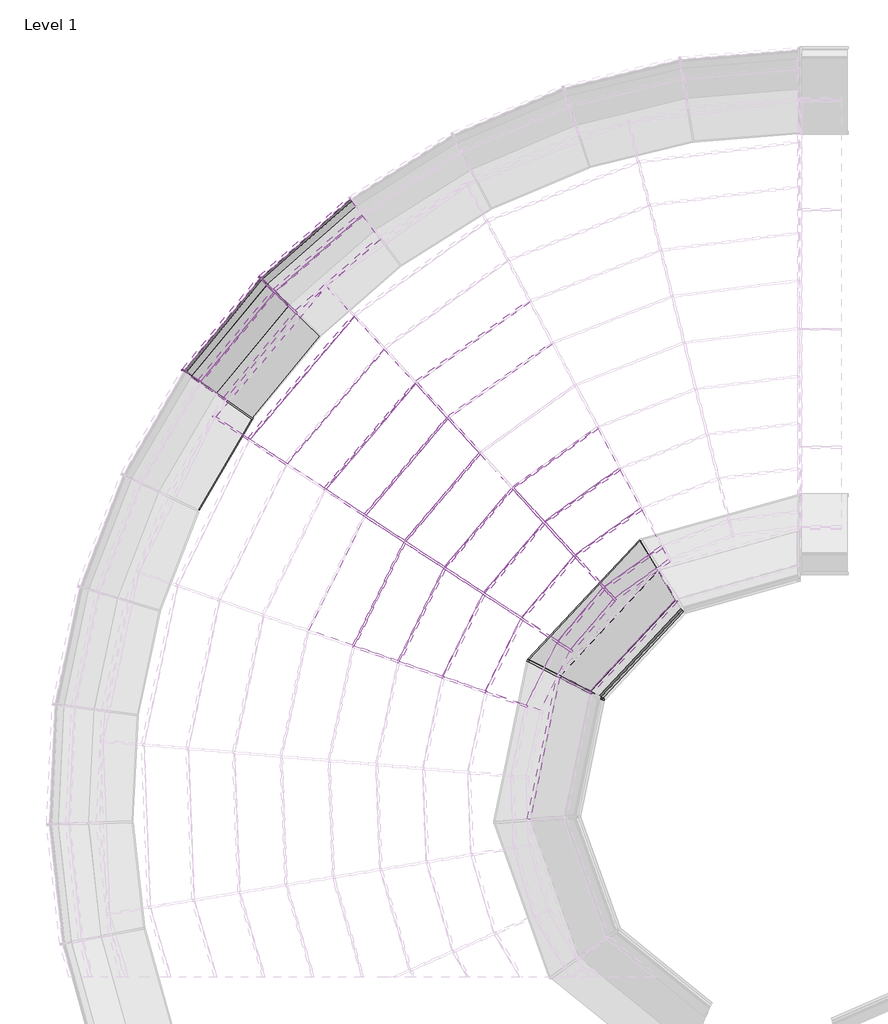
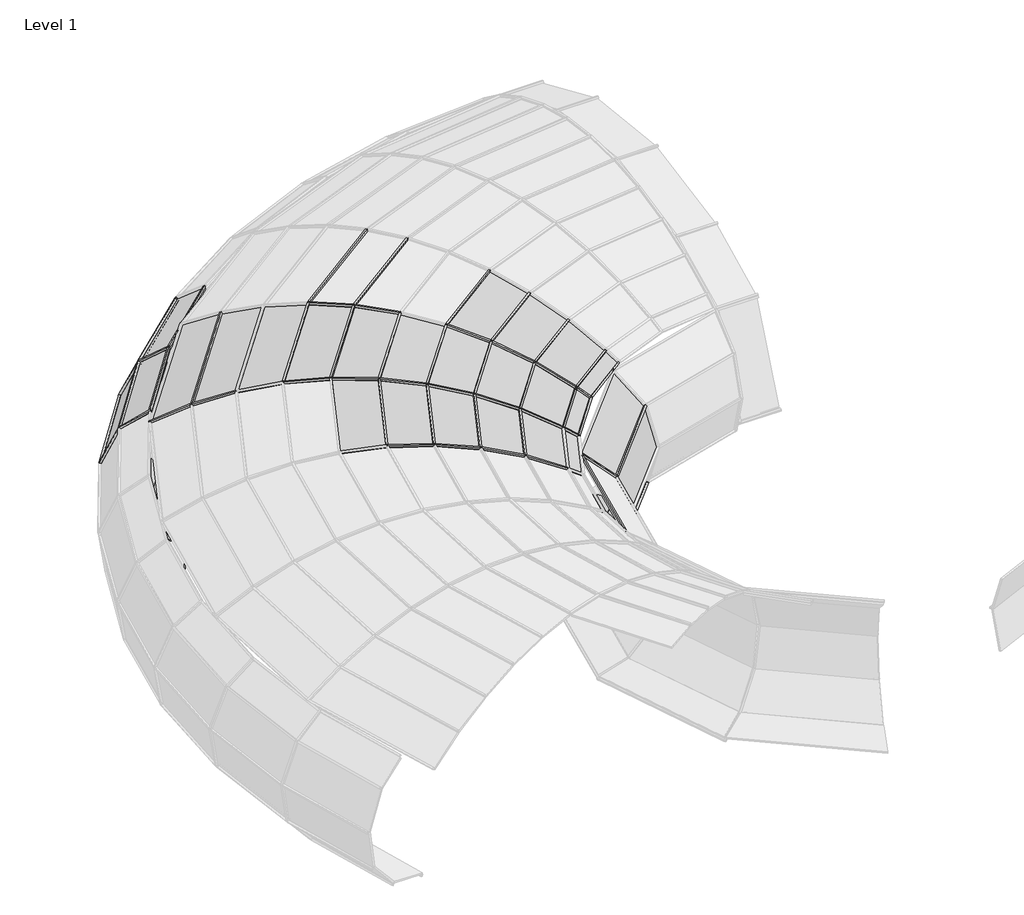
# One storey, part 14 of 23: 68 members, 32 plates.
"""IFC4 building model written with IfcOpenShell, lengths in millimetres."""

from ifc_helpers import new_model, si_unit, origin, place, context, project, spatial, transform, mapped, element, save
from components import member_6c4aaba8, member_c876edb5, member_782630c7, member_398e5ff5, member_0ea93e7c, member_01d9c279, member_398607d0, member_5ccaa950, member_8174f0e4, member_9c203333, member_86c07ba8, member_0e8a41c0, member_f532ae18, member_ff5bcfe9, member_5080b2ef, member_18f2ae55, member_cb0bb3a9, member_172ab1ab, member_54499f2f, member_c8b9029b, member_d6b8231b, member_8c9da58c, member_391bee44, member_01ebdf2a, member_0cd36c09, member_d0a40a1c, member_ff9adfd2, member_e4cc2466, system_panel_glazed_dfe8d515, system_panel_glazed_f0cf6c0b, system_panel_glazed_2b57bb89, system_panel_glazed_39caee5c, system_panel_glazed_2fe36e08, system_panel_glazed_8ac96967, system_panel_glazed_5e26bc8e, system_panel_glazed_f7be4813, system_panel_glazed_5b1ce257, system_panel_glazed_7bf4cd1b, system_panel_glazed_9f229a92, system_panel_glazed_a07c5774, system_panel_glazed_4fd85c75, system_panel_glazed_1256fb3b, system_panel_glazed_de823024, system_panel_glazed_b0e446d2, system_panel_glazed_ac948568, system_panel_glazed_4c871569, system_panel_glazed_08c7efc5

model = new_model("IFC4")

# Units and contexts
model_context = context("Model", 3, world=origin())
ifc_project = project(units=[si_unit("LENGTHUNIT", "METRE", prefix="MILLI")], contexts=[model_context])

# Site, building, storey
site = spatial("IfcSite", under=ifc_project)
building = spatial("IfcBuilding", under=site)
storey = spatial("IfcBuildingStorey", under=building, Name="Level 1", Elevation=0.0)

# Members
placement = place(None, origin())
member_shape = member_6c4aaba8(model_context)
element("IfcMember", 1, ObjectType="Rectangular Mullion : 1\" Square", at=placement, inside=storey, context=model_context, shape_type="MappedRepresentation", body=[
    mapped(member_shape, transform((-16890.4368284, 3246.325838, 2378.3537392), x_axis=(0.6900506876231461, -0.5864173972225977, 0.4241988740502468), y_axis=(-0.3232428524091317, 0.2746975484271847, 0.9055690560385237), z_axis=(-0.6475678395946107, -0.7620078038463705, 0.0))),
])
member_2_shape = member_c876edb5(model_context)
element("IfcMember", 2, ObjectType="Rectangular Mullion : 1\" Square", at=placement, inside=storey, context=model_context, shape_type="MappedRepresentation", body=[
    mapped(member_2_shape, transform((-13138.4925219, 2186.2335311, 2676.0506073), x_axis=(0.558593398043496, -0.7843279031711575, -0.2698205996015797), y_axis=(0.15652543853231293, -0.21977930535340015, 0.962910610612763), z_axis=(-0.8145386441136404, -0.5801092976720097, 0.0))),
])
element("IfcMember", 3, ObjectType="Rectangular Mullion : 1\" Square", at=placement, inside=storey, context=model_context, shape_type="MappedRepresentation", body=[
    mapped(member_2_shape, transform((-13905.7304139, 1288.212641, 2676.0506073), x_axis=(0.7337453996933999, -0.6235499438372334, -0.26982059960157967), y_axis=(0.20560540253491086, -0.17472714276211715, 0.9629106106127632), z_axis=(-0.6475678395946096, -0.7620078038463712, 0.0))),
])
element("IfcMember", 4, ObjectType="Rectangular Mullion : 1\" Square", at=placement, inside=storey, context=model_context, shape_type="MappedRepresentation", body=[
    mapped(member_2_shape, transform((-14429.5431919, 229.5740456, 2676.0506073), x_axis=(0.8641636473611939, -0.42475644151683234, -0.2698205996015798), y_axis=(0.2421503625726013, -0.11902250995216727, 0.962910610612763), z_axis=(-0.4411172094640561, -0.8974495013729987, 0.0))),
])
member_3_shape = member_782630c7(model_context)
element("IfcMember", 5, ObjectType="Rectangular Mullion : 1\" Square", at=placement, inside=storey, context=model_context, shape_type="MappedRepresentation", body=[
    mapped(member_3_shape, transform((-12749.1102639, 1762.0393058, 2475.91846), x_axis=(0.5361352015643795, -0.7527940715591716, -0.38191639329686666), y_axis=(0.22155325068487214, -0.3110856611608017, 0.9241968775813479), z_axis=(-0.8145386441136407, -0.5801092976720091, 0.0))),
])
element("IfcMember", 6, ObjectType="Rectangular Mullion : 1\" Square", at=placement, inside=storey, context=model_context, shape_type="MappedRepresentation", body=[
    mapped(member_3_shape, transform((-13424.2797031, 972.357458, 2475.91846), x_axis=(0.7042452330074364, -0.5984801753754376, -0.38191639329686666), y_axis=(0.29102327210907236, -0.24731677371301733, 0.924196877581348), z_axis=(-0.64756783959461, -0.7620078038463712, 0.0))),
])
element("IfcMember", 7, ObjectType="Rectangular Mullion : 1\" Square", at=placement, inside=storey, context=model_context, shape_type="MappedRepresentation", body=[
    mapped(member_3_shape, transform((-13885.3763044, 41.3144319, 2475.91846), x_axis=(0.8294200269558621, -0.4076791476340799, -0.3819163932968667), y_axis=(0.3427506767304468, -0.1684698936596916, 0.924196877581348), z_axis=(-0.44111720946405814, -0.8974495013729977, 0.0))),
])
member_4_shape = member_398e5ff5(model_context)
element("IfcMember", 8, ObjectType="Rectangular Mullion : 1\" Square", at=placement, inside=storey, context=model_context, shape_type="MappedRepresentation", body=[
    mapped(member_4_shape, transform((-12378.6110611, 1358.4163388, 2208.6526723), x_axis=(0.5060932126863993, -0.7106117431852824, -0.48877460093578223), y_axis=(0.2835426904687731, -0.39812580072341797, 0.8724101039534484), z_axis=(-0.8145386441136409, -0.580109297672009, 0.0))),
])
element("IfcMember", 9, ObjectType="Rectangular Mullion : 1\" Square", at=placement, inside=storey, context=model_context, shape_type="MappedRepresentation", body=[
    mapped(member_4_shape, transform((-12966.1768982, 671.8196418, 2208.6526723), x_axis=(0.6647833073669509, -0.5649447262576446, -0.4887746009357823), y_axis=(0.37245006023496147, -0.3165147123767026, 0.8724101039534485), z_axis=(-0.6475678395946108, -0.7620078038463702, 0.0))),
])
member_5_shape = member_0ea93e7c(model_context)
element("IfcMember", 10, ObjectType="Rectangular Mullion : 1\" Square", at=placement, inside=storey, context=model_context, shape_type="MappedRepresentation", body=[
    mapped(member_5_shape, transform((-14771.7057363, 3965.4610123, 2763.3769688), x_axis=(0.5684549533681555, -0.7981746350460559, 0.19943976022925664), y_axis=(-0.11569685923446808, 0.16245139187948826, 0.97991008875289), z_axis=(-0.8145386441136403, -0.5801092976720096, 0.0))),
])
element("IfcMember", 11, ObjectType="Rectangular Mullion : 1\" Square", at=placement, inside=storey, context=model_context, shape_type="MappedRepresentation", body=[
    mapped(member_5_shape, transform((-15925.1127737, 2613.0261065, 2763.3769688), x_axis=(0.7466991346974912, -0.6345582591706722, 0.19943976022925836), y_axis=(-0.15197465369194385, 0.12915077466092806, 0.9799100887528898), z_axis=(-0.6475678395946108, -0.7620078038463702, 0.0))),
])
member_6_shape = member_01d9c279(model_context)
element("IfcMember", 12, ObjectType="Rectangular Mullion : 1\" Square", at=placement, inside=storey, context=model_context, shape_type="MappedRepresentation", body=[
    mapped(member_6_shape, transform((-14363.675233, 3520.9513315, 2850.17796), x_axis=(0.5781463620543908, -0.8117824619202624, 0.08219500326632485), y_axis=(-0.04768208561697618, 0.06695100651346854, 0.9966162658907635), z_axis=(-0.814538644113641, -0.5801092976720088, 0.0))),
])
element("IfcMember", 13, ObjectType="Rectangular Mullion : 1\" Square", at=placement, inside=storey, context=model_context, shape_type="MappedRepresentation", body=[
    mapped(member_6_shape, transform((-15420.604487, 2282.0440275, 2850.17796), x_axis=(0.7594293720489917, -0.6453766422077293, 0.0821950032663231), y_axis=(-0.06263323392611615, 0.05322684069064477, 0.9966162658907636), z_axis=(-0.6475678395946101, -0.7620078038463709, 0.0))),
])
member_7_shape = member_398607d0(model_context)
element("IfcMember", 14, ObjectType="Rectangular Mullion : 1\" Square", at=placement, inside=storey, context=model_context, shape_type="MappedRepresentation", body=[
    mapped(member_7_shape, transform((-14911.0437587, 1947.7473001, 2864.5209769), x_axis=(0.7615092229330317, -0.6471441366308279, -0.03616863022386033), y_axis=(0.027560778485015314, -0.02342164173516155, 0.9993457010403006), z_axis=(-0.6475678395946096, -0.7620078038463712, 0.0))),
])
element("IfcMember", 15, ObjectType="Rectangular Mullion : 1\" Square", at=placement, inside=storey, context=model_context, shape_type="MappedRepresentation", body=[
    mapped(member_7_shape, transform((-15565.8136791, 622.6774261, 2864.5209769), x_axis=(0.8968623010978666, -0.4408285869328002, -0.03616863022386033), y_axis=(0.0324595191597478, -0.015954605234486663, 0.9993457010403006), z_axis=(-0.4411172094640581, -0.8974495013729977, 0.0))),
])
member_8_shape = member_5ccaa950(model_context)
element("IfcMember", 16, ObjectType="Rectangular Mullion : 1\" Square", at=placement, inside=storey, context=model_context, shape_type="MappedRepresentation", body=[
    mapped(member_8_shape, transform((-13541.21836, 2624.9642934, 2806.2019711), x_axis=(0.5731852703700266, -0.8048165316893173, -0.15404218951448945), y_axis=(0.08936130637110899, -0.12547331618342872, 0.9880642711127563), z_axis=(-0.8145386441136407, -0.580109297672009, 0.0))),
])
element("IfcMember", 17, ObjectType="Rectangular Mullion : 1\" Square", at=placement, inside=storey, context=model_context, shape_type="MappedRepresentation", body=[
    mapped(member_8_shape, transform((-14403.6797608, 1614.891735, 2806.2019711), x_axis=(0.7529126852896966, -0.639838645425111, -0.15404218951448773), y_axis=(0.11738135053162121, -0.09975276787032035, 0.9880642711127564), z_axis=(-0.6475678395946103, -0.7620078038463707, 0.0))),
])
element("IfcMember", 18, ObjectType="Rectangular Mullion : 1\" Square", at=placement, inside=storey, context=model_context, shape_type="MappedRepresentation", body=[
    mapped(member_8_shape, transform((-14992.3579102, 424.2850505, 2806.2019711), x_axis=(0.8867377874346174, -0.43585215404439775, -0.15404218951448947), y_axis=(0.13824508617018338, -0.06795066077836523, 0.9880642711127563), z_axis=(-0.44111720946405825, -0.8974495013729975, 0.0))),
])
member_9_shape = member_8174f0e4(model_context)
element("IfcMember", 19, ObjectType="Rectangular Mullion : 1\" Square", at=placement, inside=storey, context=model_context, shape_type="MappedRepresentation", body=[
    mapped(member_9_shape, transform((-12238.8698585, 1206.1818444, 2085.6089632), x_axis=(0.4974352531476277, -0.6984549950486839, -0.5145082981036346), y_axis=(0.2984710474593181, -0.41908689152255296, 0.857485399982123), z_axis=(-0.8145386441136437, -0.580109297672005, 0.0))),
])
element("IfcMember", 20, ObjectType="Rectangular Mullion : 1\" Square", at=placement, inside=storey, context=model_context, shape_type="MappedRepresentation", body=[
    mapped(member_9_shape, transform((-12793.3942407, 558.4657789, 2085.6089632), x_axis=(0.6534105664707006, -0.5552799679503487, -0.514508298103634), y_axis=(0.3920593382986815, -0.33317902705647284, 0.8574853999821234), z_axis=(-0.6475678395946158, -0.762007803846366, 0.0))),
])
member_10_shape = member_9c203333(model_context)
element("IfcMember", 21, ObjectType="Rectangular Mullion : 1\" Square", at=placement, inside=storey, context=model_context, shape_type="MappedRepresentation", body=[
    mapped(member_10_shape, transform((-16854.170886, 3485.1991614, 0.0), x_axis=(0.828265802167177, -0.4847088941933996, -0.28112817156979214), y_axis=(-0.2426342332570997, 0.14199182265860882, -0.9596702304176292), z_axis=(0.505078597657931, 0.8630733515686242, 0.0))),
])
member_11_shape = member_86c07ba8(model_context)
element("IfcMember", 22, ObjectType="Rectangular Mullion : 1\" Square", at=placement, inside=storey, context=model_context, shape_type="MappedRepresentation", body=[
    mapped(member_11_shape, transform((-16397.1314043, 4956.0285349, 170.8694653), x_axis=(-0.557128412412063, 0.6340442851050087, 0.536279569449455), y_axis=(-0.35398374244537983, 0.40285392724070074, -0.8440404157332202), z_axis=(-0.7512013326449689, -0.6600731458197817, 0.0))),
])
element("IfcMember", 23, ObjectType="Rectangular Mullion : 1\" Square", at=placement, inside=storey, context=model_context, shape_type="MappedRepresentation", body=[
    mapped(member_11_shape, transform((-17319.4457462, 3840.9745394, 170.8694653), x_axis=(-0.6511365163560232, 0.5370525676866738, 0.536279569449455), y_axis=(-0.41371385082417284, 0.3412281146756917, -0.8440404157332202), z_axis=(-0.6362877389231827, -0.771451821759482, 0.0))),
])
member_12_shape = member_0e8a41c0(model_context)
element("IfcMember", 24, ObjectType="Rectangular Mullion : 1\" Square", at=placement, inside=storey, context=model_context, shape_type="MappedRepresentation", body=[
    mapped(member_12_shape, transform((-16685.2660922, 5235.2997594, 629.7792003), x_axis=(-0.2787345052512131, 0.31721595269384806, 0.9064662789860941), y_axis=(-0.5983340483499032, 0.6809386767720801, -0.42227820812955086), z_axis=(-0.7512013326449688, -0.6600731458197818, 0.0))),
])
element("IfcMember", 25, ObjectType="Rectangular Mullion : 1\" Square", at=placement, inside=storey, context=model_context, shape_type="MappedRepresentation", body=[
    mapped(member_12_shape, transform((-17648.4399386, 4070.7066366, 629.7792003), x_axis=(-0.3257672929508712, 0.2686904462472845, 0.9064662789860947), y_axis=(-0.6992950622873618, 0.576773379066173, -0.4222782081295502), z_axis=(-0.6362877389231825, -0.7714518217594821, 0.0))),
])
member_13_shape = member_f532ae18(model_context)
element("IfcMember", 26, ObjectType="Rectangular Mullion : 1\" Square", at=placement, inside=storey, context=model_context, shape_type="MappedRepresentation", body=[
    mapped(member_13_shape, transform((-16750.7991511, 5298.8169213, 1232.5089476), x_axis=(0.08842369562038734, -0.10063126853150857, 0.9909866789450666), y_axis=(-0.6541236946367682, 0.7444305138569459, 0.13396044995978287), z_axis=(-0.7512013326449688, -0.6600731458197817, 0.0))),
])
element("IfcMember", 27, ObjectType="Rectangular Mullion : 1\" Square", at=placement, inside=storey, context=model_context, shape_type="MappedRepresentation", body=[
    mapped(member_13_shape, transform((-17723.2660415, 4122.9566701, 1232.5089476), x_axis=(0.10334403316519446, -0.0852373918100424, 0.9909866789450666), y_axis=(-0.7644984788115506, 0.6305526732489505, 0.1339604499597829), z_axis=(-0.6362877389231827, -0.7714518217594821, 0.0))),
])
member_14_shape = member_ff5bcfe9(model_context)
element("IfcMember", 28, ObjectType="Rectangular Mullion : 1\" Square", at=placement, inside=storey, context=model_context, shape_type="MappedRepresentation", body=[
    mapped(member_14_shape, transform((-16573.1356931, 5126.6186628, 1789.6405438), x_axis=(0.4273307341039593, -0.48632703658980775, 0.7621512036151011), y_axis=(-0.5030755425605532, 0.5725289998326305, 0.6473990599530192), z_axis=(-0.7512013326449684, -0.6600731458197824, 0.0))),
])
element("IfcMember", 29, ObjectType="Rectangular Mullion : 1\" Square", at=placement, inside=storey, context=model_context, shape_type="MappedRepresentation", body=[
    mapped(member_14_shape, transform((-17520.4086683, 3981.3041702, 1789.6405438), x_axis=(0.4994371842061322, -0.4119320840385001, 0.7621512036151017), y_axis=(-0.5879629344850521, 0.4849474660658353, 0.6473990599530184), z_axis=(-0.6362877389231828, -0.7714518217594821, 0.0))),
])
member_15_shape = member_5080b2ef(model_context)
element("IfcMember", 30, ObjectType="Rectangular Mullion : 1\" Square", at=placement, inside=storey, context=model_context, shape_type="MappedRepresentation", body=[
    mapped(member_15_shape, transform((-16286.699342, 4848.9935317, 2085.6089632), x_axis=(0.5294916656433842, -0.6025920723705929, 0.5970941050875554), y_axis=(-0.3941257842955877, 0.4485378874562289, 0.8021711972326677), z_axis=(-0.7512013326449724, -0.6600731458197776, 0.0))),
])
element("IfcMember", 31, ObjectType="Rectangular Mullion : 1\" Square", at=placement, inside=storey, context=model_context, shape_type="MappedRepresentation", body=[
    mapped(member_15_shape, transform((-17193.3536487, 3752.9261705, 2085.6089632), x_axis=(0.6188364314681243, -0.5104116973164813, 0.5970941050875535), y_axis=(-0.4606293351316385, 0.3799236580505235, 0.8021711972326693), z_axis=(-0.6362877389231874, -0.7714518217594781, 0.0))),
])
member_16_shape = member_18f2ae55(model_context)
element("IfcMember", 32, ObjectType="Rectangular Mullion : 1\" Square", at=placement, inside=storey, context=model_context, shape_type="MappedRepresentation", body=[
    mapped(member_16_shape, transform((-12556.6843912, 33.2902731, 1696.6281859), x_axis=(0.41906084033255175, -0.39066910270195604, -0.8196131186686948), y_axis=(0.5995066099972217, -0.5588895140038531, 0.5729173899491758), z_axis=(-0.6818943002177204, -0.7314507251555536, 0.0))),
])
member_17_shape = member_cb0bb3a9(model_context)
element("IfcMember", 33, ObjectType="Rectangular Mullion : 1\" Square", at=placement, inside=storey, context=model_context, shape_type="MappedRepresentation", body=[
    mapped(member_17_shape, transform((-12927.3046486, 224.7657121, 113.4427618), x_axis=(-0.658929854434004, 0.6142867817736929, -0.43412348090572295), y_axis=(0.31753993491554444, -0.2960263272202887, -0.9008533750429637), z_axis=(-0.6818943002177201, -0.7314507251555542, 0.0))),
])
member_18_shape = member_172ab1ab(model_context)
element("IfcMember", 34, ObjectType="Rectangular Mullion : 1\" Square", at=placement, inside=storey, context=model_context, shape_type="MappedRepresentation", body=[
    mapped(member_18_shape, transform((-13356.9351081, 446.7278935, 0.0), x_axis=(-0.7106614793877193, 0.6625135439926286, -0.23671938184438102), y_axis=(0.17314856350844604, -0.16141759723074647, -0.9715780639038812), z_axis=(-0.6818943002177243, -0.73145072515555, 0.0))),
])
member_19_shape = member_54499f2f(model_context)
element("IfcMember", 35, ObjectType="Rectangular Mullion : 1\" Square", at=placement, inside=storey, context=model_context, shape_type="MappedRepresentation", body=[
    mapped(member_19_shape, transform((-12529.1689958, 19.0748536, 526.7119632), x_axis=(-0.3863430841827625, 0.36016800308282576, -0.8491278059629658), y_axis=(0.6210951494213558, -0.5790154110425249, -0.5281874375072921), z_axis=(-0.6818943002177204, -0.7314507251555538, 0.0))),
])
member_20_shape = member_c8b9029b(model_context)
element("IfcMember", 36, ObjectType="Rectangular Mullion : 1\" Square", at=placement, inside=storey, context=model_context, shape_type="MappedRepresentation", body=[
    mapped(member_20_shape, transform((-12984.9135257, 227.0014528, 2085.6089632), x_axis=(-0.7422932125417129, 0.15308770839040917, 0.6523533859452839), y_axis=(0.6389074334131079, -0.13176582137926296, 0.7579149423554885), z_axis=(0.20198534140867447, 0.9793885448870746, 0.0))),
])
member_21_shape = member_d6b8231b(model_context)
element("IfcMember", 37, ObjectType="Rectangular Mullion : 1\" Square", at=placement, inside=storey, context=model_context, shape_type="MappedRepresentation", body=[
    mapped(member_21_shape, transform((-16847.7563878, 3496.1601929, 0.0), x_axis=(-0.5725189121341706, -0.8198915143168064, 0.0), y_axis=(-0.22981368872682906, 0.16047572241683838, -0.9599131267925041), z_axis=(0.7870246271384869, -0.5495684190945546, -0.28029767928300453))),
])
member_22_shape = member_8c9da58c(model_context)
element("IfcMember", 38, ObjectType="Rectangular Mullion : 1\" Square", at=placement, inside=storey, context=model_context, shape_type="MappedRepresentation", body=[
    mapped(member_22_shape, transform((-16406.6716612, 4947.645606, 170.8694653), x_axis=(-0.6959761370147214, -0.7180649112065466, 0.0), y_axis=(-0.540562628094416, 0.523934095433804, -0.6582439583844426), z_axis=(0.472661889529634, -0.4581220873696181, -0.7528046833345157))),
])
element("IfcMember", 39, ObjectType="Rectangular Mullion : 1\" Square", at=placement, inside=storey, context=model_context, shape_type="MappedRepresentation", body=[
    mapped(member_22_shape, transform((-16694.8063491, 5226.9168304, 629.7792003), x_axis=(-0.695976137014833, -0.7180649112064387, 0.0), y_axis=(-0.7099722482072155, 0.6881324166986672, -0.1497103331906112), z_axis=(0.10750173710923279, -0.10419481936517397, -0.9887299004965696))),
])
element("IfcMember", 40, ObjectType="Rectangular Mullion : 1\" Square", at=placement, inside=storey, context=model_context, shape_type="MappedRepresentation", body=[
    mapped(member_22_shape, transform((-17327.5266005, 3831.1771012, 170.8694653), x_axis=(-0.5725189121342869, -0.819891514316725, 0.0), y_axis=(-0.6172181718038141, 0.43099491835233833, -0.6582439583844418), z_axis=(0.5396886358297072, -0.37685711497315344, -0.7528046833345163))),
])
element("IfcMember", 41, ObjectType="Rectangular Mullion : 1\" Square", at=placement, inside=storey, context=model_context, shape_type="MappedRepresentation", body=[
    mapped(member_22_shape, transform((-17656.5207929, 4060.9091985, 629.7792003), x_axis=(-0.5725189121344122, -0.8198915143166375, 0.0), y_axis=(-0.8106512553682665, 0.5660665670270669, -0.14971033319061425), z_axis=(0.1227462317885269, -0.08571199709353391, -0.9887299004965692))),
])
member_23_shape = member_391bee44(model_context)
element("IfcMember", 42, ObjectType="Rectangular Mullion : 1\" Square", at=placement, inside=storey, context=model_context, shape_type="MappedRepresentation", body=[
    mapped(member_23_shape, transform((-16760.339408, 5290.4339923, 1232.5089476), x_axis=(-0.695976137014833, -0.7180649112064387, 0.0), y_axis=(-0.6562609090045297, 0.6360733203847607, 0.4058723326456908), z_axis=(-0.2914426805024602, 0.2824774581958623, -0.9139297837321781))),
])
element("IfcMember", 43, ObjectType="Rectangular Mullion : 1\" Square", at=placement, inside=storey, context=model_context, shape_type="MappedRepresentation", body=[
    mapped(member_23_shape, transform((-17731.3468958, 4113.1592319, 1232.5089476), x_axis=(-0.5725189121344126, -0.8198915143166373, 0.0), y_axis=(-0.749323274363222, 0.5232420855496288, 0.40587233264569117), z_axis=(-0.3327712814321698, 0.23236958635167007, -0.9139297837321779))),
])
member_24_shape = member_01ebdf2a(model_context)
element("IfcMember", 44, ObjectType="Rectangular Mullion : 1\" Square", at=placement, inside=storey, context=model_context, shape_type="MappedRepresentation", body=[
    mapped(member_24_shape, transform((-16582.67595, 5118.2357338, 1789.6405438), x_axis=(-0.6959761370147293, -0.718064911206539, 0.0), y_axis=(-0.4278661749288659, 0.41470435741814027, 0.8030883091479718), z_axis=(-0.5766695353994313, 0.5589302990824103, -0.5958600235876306))),
])
element("IfcMember", 45, ObjectType="Rectangular Mullion : 1\" Square", at=placement, inside=storey, context=model_context, shape_type="MappedRepresentation", body=[
    mapped(member_24_shape, transform((-17528.4895226, 3971.5067321, 1789.6405438), x_axis=(-0.5725189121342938, -0.8198915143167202, 0.0), y_axis=(-0.48854057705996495, 0.3411411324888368, 0.8030883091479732), z_axis=(-0.6584452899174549, 0.4597832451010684, -0.5958600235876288))),
])
member_25_shape = member_0cd36c09(model_context)
element("IfcMember", 46, ObjectType="Rectangular Mullion : 1\" Square", at=placement, inside=storey, context=model_context, shape_type="MappedRepresentation", body=[
    mapped(member_25_shape, transform((-14782.0503771, 3958.0936242, 2763.3769688), x_axis=(-0.7366889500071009, -0.6762317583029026, 0.0), y_axis=(-0.09628869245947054, 0.10489719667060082, 0.9898106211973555), z_axis=(-0.6693413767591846, 0.7291825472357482, -0.14239007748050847))),
])
element("IfcMember", 47, ObjectType="Rectangular Mullion : 1\" Square", at=placement, inside=storey, context=model_context, shape_type="MappedRepresentation", body=[
    mapped(member_25_shape, transform((-14374.0198738, 3513.5839434, 2850.17796), x_axis=(-0.7366889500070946, -0.6762317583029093, 0.0), y_axis=(-0.015910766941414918, 0.01733323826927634, 0.9997231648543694), z_axis=(-0.6760445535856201, 0.7364850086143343, -0.02352857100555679))),
])
element("IfcMember", 48, ObjectType="Rectangular Mullion : 1\" Square", at=placement, inside=storey, context=model_context, shape_type="MappedRepresentation", body=[
    mapped(member_25_shape, transform((-16898.66094, 3236.6483389, 2378.3537392), x_axis=(-0.5485388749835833, -0.8361250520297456, 0.0), y_axis=(-0.3113511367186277, 0.20426155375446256, 0.9280828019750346), z_axis=(-0.7759932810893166, 0.5090894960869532, -0.3723738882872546))),
])
element("IfcMember", 49, ObjectType="Rectangular Mullion : 1\" Square", at=placement, inside=storey, context=model_context, shape_type="MappedRepresentation", body=[
    mapped(member_25_shape, transform((-15933.3368853, 2603.3486074, 2763.3769688), x_axis=(-0.5485388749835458, -0.8361250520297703, 0.0), y_axis=(-0.11905591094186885, 0.07810649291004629, 0.9898106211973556), z_axis=(-0.8276054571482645, 0.5429496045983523, -0.14239007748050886))),
])
element("IfcMember", 50, ObjectType="Rectangular Mullion : 1\" Square", at=placement, inside=storey, context=model_context, shape_type="MappedRepresentation", body=[
    mapped(member_25_shape, transform((-15428.8285986, 2272.3665284, 2850.17796), x_axis=(-0.5485388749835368, -0.8361250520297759, 0.0), y_axis=(-0.019672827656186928, 0.012906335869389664, 0.9997231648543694), z_axis=(-0.8358935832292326, 0.548387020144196, -0.02352857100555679))),
])
element("IfcMember", 51, ObjectType="Rectangular Mullion : 1\" Square", at=placement, inside=storey, context=model_context, shape_type="MappedRepresentation", body=[
    mapped(member_25_shape, transform((-13551.5630008, 2617.5969053, 2806.2019711), x_axis=(-0.7366889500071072, -0.6762317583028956, 0.0), y_axis=(0.1443774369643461, -0.15728522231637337, 0.9769424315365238), z_axis=(-0.660639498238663, 0.7197026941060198, 0.2135028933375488))),
])
element("IfcMember", 52, ObjectType="Rectangular Mullion : 1\" Square", at=placement, inside=storey, context=model_context, shape_type="MappedRepresentation", body=[
    mapped(member_25_shape, transform((-13148.8371627, 2178.866143, 2676.0506073), x_axis=(-0.7366889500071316, -0.6762317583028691, 0.0), y_axis=(0.22200740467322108, -0.2418555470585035, 0.9445732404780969), z_axis=(-0.6387504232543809, 0.6958566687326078, 0.3283007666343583))),
])
element("IfcMember", 53, ObjectType="Rectangular Mullion : 1\" Square", at=placement, inside=storey, context=model_context, shape_type="MappedRepresentation", body=[
    mapped(member_25_shape, transform((-14919.2678703, 1938.069801, 2864.5209769), x_axis=(-0.5485388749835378, -0.8361250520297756, 0.0), y_axis=(0.07999012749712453, -0.05247743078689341, 0.9954133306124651), z_axis=(-0.8322900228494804, 0.5460229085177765, 0.09566766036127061))),
])
element("IfcMember", 54, ObjectType="Rectangular Mullion : 1\" Square", at=placement, inside=storey, context=model_context, shape_type="MappedRepresentation", body=[
    mapped(member_25_shape, transform((-14411.9038723, 1605.2142359, 2806.2019711), x_axis=(-0.5485388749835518, -0.8361250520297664, 0.0), y_axis=(0.17851511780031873, -0.11711463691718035, 0.9769424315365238), z_axis=(-0.8168460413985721, 0.5358909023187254, 0.21350289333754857))),
])
element("IfcMember", 55, ObjectType="Rectangular Mullion : 1\" Square", at=placement, inside=storey, context=model_context, shape_type="MappedRepresentation", body=[
    mapped(member_25_shape, transform((-13913.9545255, 1278.5351419, 2676.0506073), x_axis=(-0.548538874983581, -0.8361250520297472, 0.0), y_axis=(0.2745004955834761, -0.1800857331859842, 0.944573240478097), z_axis=(-0.7897813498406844, 0.5181351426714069, 0.3283007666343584))),
])
element("IfcMember", 56, ObjectType="Rectangular Mullion : 1\" Square", at=placement, inside=storey, context=model_context, shape_type="MappedRepresentation", body=[
    mapped(member_25_shape, transform((-15571.4158676, 611.2798175, 2864.5209769), x_axis=(-0.3269464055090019, -0.9450428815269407, 0.0), y_axis=(0.09041004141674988, -0.031278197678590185, 0.9954133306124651), z_axis=(-0.9407082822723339, 0.3254468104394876, 0.09566766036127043))),
])
element("IfcMember", 57, ObjectType="Rectangular Mullion : 1\" Square", at=placement, inside=storey, context=model_context, shape_type="MappedRepresentation", body=[
    mapped(member_25_shape, transform((-14997.9600987, 412.8874418, 2806.2019711), x_axis=(-0.3269464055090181, -0.9450428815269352, 0.0), y_axis=(0.20176938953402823, -0.06980400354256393, 0.9769424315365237), z_axis=(-0.9232524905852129, 0.31940781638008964, 0.21350289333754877))),
])
element("IfcMember", 58, ObjectType="Rectangular Mullion : 1\" Square", at=placement, inside=storey, context=model_context, shape_type="MappedRepresentation", body=[
    mapped(member_25_shape, transform((-14435.1453805, 218.176437, 2676.0506073), x_axis=(-0.3269464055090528, -0.9450428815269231, 0.0), y_axis=(0.31025830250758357, -0.1073367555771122, 0.9445732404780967), z_axis=(-0.8926622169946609, 0.3088248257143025, 0.3283007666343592))),
])
member_26_shape = member_d0a40a1c(model_context)
element("IfcMember", 59, ObjectType="Rectangular Mullion : 1\" Square", at=placement, inside=storey, context=model_context, shape_type="MappedRepresentation", body=[
    mapped(member_26_shape, transform((-12759.4549047, 1754.6719177, 2475.91846), x_axis=(-0.736688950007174, -0.676231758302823, 0.0), y_axis=(0.29647902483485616, -0.32298515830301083, 0.8987662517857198), z_axis=(-0.607774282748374, 0.6621111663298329, 0.438428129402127))),
])
element("IfcMember", 60, ObjectType="Rectangular Mullion : 1\" Square", at=placement, inside=storey, context=model_context, shape_type="MappedRepresentation", body=[
    mapped(member_26_shape, transform((-13432.5038146, 962.6799589, 2475.91846), x_axis=(-0.5485388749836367, -0.8361250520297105, 0.0), y_axis=(0.3665807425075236, -0.2404948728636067, 0.8987662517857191), z_axis=(-0.7514809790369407, 0.49300822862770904, 0.4384281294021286))),
])
element("IfcMember", 61, ObjectType="Rectangular Mullion : 1\" Square", at=placement, inside=storey, context=model_context, shape_type="MappedRepresentation", body=[
    mapped(member_26_shape, transform((-13890.978493, 29.9168232, 2475.91846), x_axis=(-0.326946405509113, -0.9450428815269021, 0.0), y_axis=(0.414333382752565, -0.14334250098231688, 0.8987662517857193), z_axis=(-0.8493726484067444, 0.2938483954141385, 0.4384281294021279))),
])
member_27_shape = member_ff9adfd2(model_context)
element("IfcMember", 62, ObjectType="Rectangular Mullion : 1\" Square", at=placement, inside=storey, context=model_context, shape_type="MappedRepresentation", body=[
    mapped(member_27_shape, transform((-12388.9557019, 1351.0489507, 2208.6526723), x_axis=(-0.7366889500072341, -0.6762317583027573, 0.0), y_axis=(0.34596383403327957, -0.3768940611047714, 0.8592205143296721), z_axis=(-0.581032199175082, 0.632978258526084, 0.5116054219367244))),
])
element("IfcMember", 63, ObjectType="Rectangular Mullion : 1\" Square", at=placement, inside=storey, context=model_context, shape_type="MappedRepresentation", body=[
    mapped(member_27_shape, transform((-12974.4010098, 662.1421427, 2208.6526723), x_axis=(-0.5485388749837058, -0.8361250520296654, 0.0), y_axis=(0.4277661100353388, -0.28063546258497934, 0.8592205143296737), z_axis=(-0.7184157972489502, 0.4713158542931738, 0.5116054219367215))),
])
member_28_shape = member_e4cc2466(model_context)
element("IfcMember", 64, ObjectType="Rectangular Mullion : 1\" Square", at=placement, inside=storey, context=model_context, shape_type="MappedRepresentation", body=[
    mapped(member_28_shape, transform((-17345.7437028, 3529.9564693, 2085.6089632), x_axis=(-0.548538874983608, -0.8361250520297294, 0.0), y_axis=(-0.40152762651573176, 0.26342173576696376, 0.8771456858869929), z_axis=(-0.7334034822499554, 0.48114850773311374, -0.48022437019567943))),
])
element("IfcMember", 65, ObjectType="Rectangular Mullion : 1\" Square", at=placement, inside=storey, context=model_context, shape_type="MappedRepresentation", body=[
    mapped(member_22_shape, transform((-12565.3444488, 24.0008489, 1696.6281859), x_axis=(-0.4589979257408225, -0.8884373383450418, 0.0), y_axis=(0.8459339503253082, -0.4370391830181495, 0.305601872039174), z_axis=(-0.2715081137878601, 0.14027062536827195, 0.952159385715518))),
])
element("IfcMember", 66, ObjectType="Rectangular Mullion : 1\" Square", at=placement, inside=storey, context=model_context, shape_type="MappedRepresentation", body=[
    mapped(member_23_shape, transform((-12537.8290534, 9.7854294, 526.7119632), x_axis=(-0.45899792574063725, -0.8884373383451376, 0.0), y_axis=(0.6023028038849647, -0.31117077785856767, -0.7351218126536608), z_axis=(0.6531096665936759, -0.3374193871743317, 0.6779350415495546))),
])
element("IfcMember", 67, ObjectType="Rectangular Mullion : 1\" Square", at=placement, inside=storey, context=model_context, shape_type="MappedRepresentation", body=[
    mapped(member_24_shape, transform((-12935.9647062, 215.4762879, 113.4427618), x_axis=(-0.4589979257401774, -0.8884373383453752, 0.0), y_axis=(0.20290954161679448, -0.10483019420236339, -0.9735698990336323), z_axis=(0.8649558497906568, -0.44686656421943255, 0.22838925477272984))),
])
element("IfcMember", 68, ObjectType="Rectangular Mullion : 1\" Square", at=placement, inside=storey, context=model_context, shape_type="MappedRepresentation", body=[
    mapped(member_21_shape, transform((-12982.3483119, 239.4396873, 2085.6089632), x_axis=(-0.4589979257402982, -0.8884373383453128, 0.0), y_axis=(0.5669046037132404, -0.2928828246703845, 0.7699602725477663), z_axis=(-0.6840614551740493, 0.3534101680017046, 0.6380918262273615))),
])

# Plates
system_panel_glazed_shape = system_panel_glazed_dfe8d515(model_context)
element("IfcPlate", 69, ObjectType="System Panel : Glazed", at=placement, inside=storey, context=model_context, shape_type="MappedRepresentation", body=[
    mapped(system_panel_glazed_shape, transform((-16435.92612, 4033.7830533, 7.1406556), x_axis=(-0.6362877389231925, -0.7714518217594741, 0.0), y_axis=(0.21687684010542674, -0.17887840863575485, 0.959670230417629), z_axis=(-0.7403393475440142, 0.6106264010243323, 0.281128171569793))),
])
system_panel_glazed_2_shape = system_panel_glazed_f0cf6c0b(model_context)
element("IfcPlate", 70, ObjectType="System Panel : Glazed", at=placement, inside=storey, context=model_context, shape_type="MappedRepresentation", body=[
    mapped(system_panel_glazed_2_shape, transform((-16873.536492, 4394.7208413, 180.4433737), x_axis=(-0.6362877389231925, -0.7714518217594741, 0.0), y_axis=(0.5815597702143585, -0.47966618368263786, 0.6570453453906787), z_axis=(-0.506878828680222, 0.41806989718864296, 0.7538510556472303))),
])
system_panel_glazed_3_shape = system_panel_glazed_2b57bb89(model_context)
element("IfcPlate", 71, ObjectType="System Panel : Glazed", at=placement, inside=storey, context=model_context, shape_type="MappedRepresentation", body=[
    mapped(system_panel_glazed_3_shape, transform((-16128.3573684, 5727.1730268, 642.3369711), x_axis=(-0.7512013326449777, -0.6600731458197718, 0.0), y_axis=(0.6526808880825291, -0.742788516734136, 0.1492410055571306), z_axis=(-0.09850998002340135, 0.11211004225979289, 0.9888008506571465))),
])
element("IfcPlate", 72, ObjectType="System Panel : Glazed", at=placement, inside=storey, context=model_context, shape_type="MappedRepresentation", body=[
    mapped(system_panel_glazed_3_shape, transform((-17177.1257505, 4645.1190093, 642.3369711), x_axis=(-0.6362877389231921, -0.7714518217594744, 0.0), y_axis=(0.7628122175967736, -0.6291618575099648, 0.14924100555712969), z_axis=(-0.11513224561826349, 0.09496022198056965, 0.9888008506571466))),
])
system_panel_glazed_4_shape = system_panel_glazed_39caee5c(model_context)
element("IfcPlate", 73, ObjectType="System Panel : Glazed", at=placement, inside=storey, context=model_context, shape_type="MappedRepresentation", body=[
    mapped(system_panel_glazed_4_shape, transform((-16183.7603873, 5790.2248596, 1244.1219817), x_axis=(-0.7512013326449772, -0.6600731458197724, 0.0), y_axis=(0.6035788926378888, -0.6869076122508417, -0.404784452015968), z_axis=(0.2671873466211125, -0.30407461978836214, 0.9144121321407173))),
])
element("IfcPlate", 74, ObjectType="System Panel : Glazed", at=placement, inside=storey, context=model_context, shape_type="MappedRepresentation", body=[
    mapped(system_panel_glazed_4_shape, transform((-17241.8773013, 4698.525608, 1244.1219817), x_axis=(-0.6362877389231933, -0.7714518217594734, 0.0), y_axis=(0.7054249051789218, -0.5818292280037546, -0.404784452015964), z_axis=(0.31227170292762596, -0.2575593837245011, 0.914412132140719))),
])
system_panel_glazed_5_shape = system_panel_glazed_2fe36e08(model_context)
element("IfcPlate", 75, ObjectType="System Panel : Glazed", at=placement, inside=storey, context=model_context, shape_type="MappedRepresentation", body=[
    mapped(system_panel_glazed_5_shape, transform((-16017.637633, 5601.1675783, 1797.2236389), x_axis=(-0.7512013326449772, -0.6600731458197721, 0.0), y_axis=(0.39412578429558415, -0.448537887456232, -0.8021711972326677), z_axis=(0.5294916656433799, -0.6025920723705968, 0.5970941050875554))),
])
element("IfcPlate", 76, ObjectType="System Panel : Glazed", at=placement, inside=storey, context=model_context, shape_type="MappedRepresentation", body=[
    mapped(system_panel_glazed_5_shape, transform((-17047.7235136, 4538.3890044, 1797.2236389), x_axis=(-0.6362877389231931, -0.7714518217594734, 0.0), y_axis=(0.4606293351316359, -0.3799236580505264, -0.802171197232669), z_axis=(0.6188364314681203, -0.5104116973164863, 0.5970941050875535))),
])
system_panel_glazed_6_shape = system_panel_glazed_8ac96967(model_context)
element("IfcPlate", 77, ObjectType="System Panel : Glazed", at=placement, inside=storey, context=model_context, shape_type="MappedRepresentation", body=[
    mapped(system_panel_glazed_6_shape, transform((-16618.1053063, 4351.8414657, 2097.8788164), x_axis=(-0.6475678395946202, -0.7620078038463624, 0.0), y_axis=(0.3680993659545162, -0.3128174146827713, -0.8755844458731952), z_axis=(0.6672021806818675, -0.5670003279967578, 0.48306508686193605))),
])
system_panel_glazed_7_shape = system_panel_glazed_5e26bc8e(model_context)
element("IfcPlate", 78, ObjectType="System Panel : Glazed", at=placement, inside=storey, context=model_context, shape_type="MappedRepresentation", body=[
    mapped(system_panel_glazed_7_shape, transform((-16221.7456932, 4015.0079883, 2383.1142391), x_axis=(-0.6475678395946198, -0.7620078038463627, 0.0), y_axis=(0.28563291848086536, -0.24273595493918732, -0.9270885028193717), z_axis=(0.7064486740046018, -0.6003526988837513, 0.37484251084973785))),
])
system_panel_glazed_8_shape = system_panel_glazed_f7be4813(model_context)
element("IfcPlate", 79, ObjectType="System Panel : Glazed", at=placement, inside=storey, context=model_context, shape_type="MappedRepresentation", body=[
    mapped(system_panel_glazed_8_shape, transform((-15793.5608106, 3651.1288286, 2608.668686), x_axis=(-0.6475678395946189, -0.7620078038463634, 0.0), y_axis=(0.19895150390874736, -0.1690725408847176, -0.9653148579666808), z_axis=(0.7355774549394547, -0.62510685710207, 0.2610885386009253))),
])
system_panel_glazed_9_shape = system_panel_glazed_5b1ce257(model_context)
element("IfcPlate", 80, ObjectType="System Panel : Glazed", at=placement, inside=storey, context=model_context, shape_type="MappedRepresentation", body=[
    mapped(system_panel_glazed_9_shape, transform((-15348.1162424, 3272.5820797, 2765.1989775), x_axis=(-0.6475678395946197, -0.7620078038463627, 0.0), y_axis=(0.1093216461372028, -0.09290348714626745, -0.9896553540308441), z_axis=(0.7541251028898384, -0.6408689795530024, 0.14346525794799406))),
])
system_panel_glazed_10_shape = system_panel_glazed_7bf4cd1b(model_context)
element("IfcPlate", 81, ObjectType="System Panel : Glazed", at=placement, inside=storey, context=model_context, shape_type="MappedRepresentation", body=[
    mapped(system_panel_glazed_10_shape, transform((-14891.7494576, 2884.7534363, 2850.4790751), x_axis=(-0.6475678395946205, -0.7620078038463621, 0.0), y_axis=(0.0180670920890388, -0.015353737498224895, -0.9997188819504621), z_axis=(0.7617935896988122, -0.6473857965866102, 0.023709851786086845))),
])
element("IfcPlate", 82, ObjectType="System Panel : Glazed", at=placement, inside=storey, context=model_context, shape_type="MappedRepresentation", body=[
    mapped(system_panel_glazed_10_shape, transform((-15776.6971567, 1535.8482361, 2850.4790751), x_axis=(-0.44111720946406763, -0.8974495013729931, 0.0), y_axis=(0.021278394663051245, -0.010458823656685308, -0.9997188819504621), z_axis=(0.8971972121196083, -0.4409932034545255, 0.023709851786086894))),
])
system_panel_glazed_11_shape = system_panel_glazed_9f229a92(model_context)
element("IfcPlate", 83, ObjectType="System Panel : Glazed", at=placement, inside=storey, context=model_context, shape_type="MappedRepresentation", body=[
    mapped(system_panel_glazed_11_shape, transform((-14430.9530627, 2493.160431, 2863.296718), x_axis=(-0.6475678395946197, -0.7620078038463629, 0.0), y_axis=(-0.07345628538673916, 0.062424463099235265, -0.9953428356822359), z_axis=(0.7584590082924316, -0.644552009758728, -0.0963983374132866))),
])
element("IfcPlate", 84, ObjectType="System Panel : Glazed", at=placement, inside=storey, context=model_context, shape_type="MappedRepresentation", body=[
    mapped(system_panel_glazed_11_shape, transform((-15233.9973408, 1269.098711, 2863.296718), x_axis=(-0.44111720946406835, -0.8974495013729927, 0.0), y_axis=(-0.08651263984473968, 0.04252296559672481, -0.9953428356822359), z_axis=(0.893269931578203, -0.4390628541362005, -0.09639833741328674))),
])
system_panel_glazed_12_shape = system_panel_glazed_a07c5774(model_context)
element("IfcPlate", 85, ObjectType="System Panel : Glazed", at=placement, inside=storey, context=model_context, shape_type="MappedRepresentation", body=[
    mapped(system_panel_glazed_12_shape, transform((-13003.2811729, 2992.8530013, 2803.4705448), x_axis=(-0.8145386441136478, -0.580109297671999, 0.0), y_axis=(-0.1247658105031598, 0.17518521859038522, -0.9765979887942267), z_axis=(0.5665335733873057, -0.7954768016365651, -0.2150729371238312))),
])
element("IfcPlate", 86, ObjectType="System Panel : Glazed", at=placement, inside=storey, context=model_context, shape_type="MappedRepresentation", body=[
    mapped(system_panel_glazed_12_shape, transform((-13972.2824104, 2103.3739198, 2803.4705448), x_axis=(-0.6475678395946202, -0.7620078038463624, 0.0), y_axis=(-0.16388725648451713, 0.13927431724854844, -0.9765979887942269), z_axis=(0.7441752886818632, -0.6324134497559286, -0.21507293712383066))),
])
element("IfcPlate", 87, ObjectType="System Panel : Glazed", at=placement, inside=storey, context=model_context, shape_type="MappedRepresentation", body=[
    mapped(system_panel_glazed_12_shape, transform((-14693.8011038, 1003.5797528, 2803.4705448), x_axis=(-0.4411172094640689, -0.8974495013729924, 0.0), y_axis=(-0.193017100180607, 0.09487237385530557, -0.9765979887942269), z_axis=(0.8764473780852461, -0.4307941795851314, -0.21507293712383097))),
])
system_panel_glazed_13_shape = system_panel_glazed_4fd85c75(model_context)
element("IfcPlate", 88, ObjectType="System Panel : Glazed", at=placement, inside=storey, context=model_context, shape_type="MappedRepresentation", body=[
    mapped(system_panel_glazed_13_shape, transform((-12660.6851805, 2511.8097285, 2671.8525455), x_axis=(-0.8145386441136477, -0.5801092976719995, 0.0), y_axis=(-0.19175863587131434, 0.2692506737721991, -0.9437863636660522), z_axis=(0.5474992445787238, -0.7687504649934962, -0.330556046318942))),
])
element("IfcPlate", 89, ObjectType="System Panel : Glazed", at=placement, inside=storey, context=model_context, shape_type="MappedRepresentation", body=[
    mapped(system_panel_glazed_13_shape, transform((-13522.2623524, 1720.9388381, 2671.8525455), x_axis=(-0.6475678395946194, -0.7620078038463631, 0.0), y_axis=(-0.2518862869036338, 0.21405746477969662, -0.9437863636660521), z_axis=(0.7191725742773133, -0.6111656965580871, -0.3305560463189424))),
])
element("IfcPlate", 90, ObjectType="System Panel : Glazed", at=placement, inside=storey, context=model_context, shape_type="MappedRepresentation", body=[
    mapped(system_panel_glazed_13_shape, transform((-14163.7930453, 743.0685203, 2671.8525455), x_axis=(-0.4411172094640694, -0.8974495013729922, 0.0), y_axis=(-0.2966573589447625, 0.1458139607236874, -0.9437863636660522), z_axis=(0.8470006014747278, -0.4163204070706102, -0.3305560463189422))),
])
system_panel_glazed_14_shape = system_panel_glazed_1256fb3b(model_context)
element("IfcPlate", 91, ObjectType="System Panel : Glazed", at=placement, inside=storey, context=model_context, shape_type="MappedRepresentation", body=[
    mapped(system_panel_glazed_14_shape, transform((-12329.5482583, 2046.8562781, 2470.3158265), x_axis=(-0.8145386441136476, -0.5801092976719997, 0.0), y_axis=(-0.2559165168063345, 0.35933554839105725, -0.8974322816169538), z_axis=(0.5206088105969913, -0.7309932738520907, -0.44115224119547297))),
])
element("IfcPlate", 92, ObjectType="System Panel : Glazed", at=placement, inside=storey, context=model_context, shape_type="MappedRepresentation", body=[
    mapped(system_panel_glazed_14_shape, transform((-13087.2944595, 1351.2953551, 2470.3158265), x_axis=(-0.6475678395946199, -0.7620078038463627, 0.0), y_axis=(-0.3361614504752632, 0.2856760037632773, -0.8974322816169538), z_axis=(0.6838504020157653, -0.5811482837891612, -0.44115224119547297))),
])
element("IfcPlate", 93, ObjectType="System Panel : Glazed", at=placement, inside=storey, context=model_context, shape_type="MappedRepresentation", body=[
    mapped(system_panel_glazed_14_shape, transform((-13651.5125719, 491.2708062, 2470.3158265), x_axis=(-0.44111720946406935, -0.8974495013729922, 0.0), y_axis=(-0.3959118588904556, 0.19459984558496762, -0.8974322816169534), z_axis=(0.8054001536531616, -0.39587282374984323, -0.4411522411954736))),
])
system_panel_glazed_15_shape = system_panel_glazed_de823024(model_context)
element("IfcPlate", 94, ObjectType="System Panel : Glazed", at=placement, inside=storey, context=model_context, shape_type="MappedRepresentation", body=[
    mapped(system_panel_glazed_15_shape, transform((-12014.4391465, 1604.4076745, 2202.1184169), x_axis=(-0.8145386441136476, -0.5801092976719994, 0.0), y_axis=(-0.2984710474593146, 0.4190868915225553, -0.857485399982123), z_axis=(0.49743525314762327, -0.6984549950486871, -0.5145082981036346))),
])
element("IfcPlate", 95, ObjectType="System Panel : Glazed", at=placement, inside=storey, context=model_context, shape_type="MappedRepresentation", body=[
    mapped(system_panel_glazed_15_shape, transform((-12673.3800417, 999.5434911, 2202.1184169), x_axis=(-0.64756783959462, -0.7620078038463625, 0.0), y_axis=(-0.39205933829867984, 0.33317902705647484, -0.8574853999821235), z_axis=(0.6534105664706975, -0.5552799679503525, -0.514508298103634))),
])
element("IfcPlate", 96, ObjectType="System Panel : Glazed", at=placement, inside=storey, context=model_context, shape_type="MappedRepresentation", body=[
    mapped(system_panel_glazed_15_shape, transform((-13164.0276851, 251.6606972, 2202.1184169), x_axis=(-0.44111720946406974, -0.897449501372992, 0.0), y_axis=(-0.46174521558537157, 0.2269584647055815, -0.8574853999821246), z_axis=(0.7695498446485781, -0.37825156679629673, -0.5145082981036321))),
])
system_panel_glazed_16_shape = system_panel_glazed_b0e446d2(model_context)
element("IfcPlate", 97, ObjectType="System Panel : Glazed", at=placement, inside=storey, context=model_context, shape_type="MappedRepresentation", body=[
    mapped(system_panel_glazed_16_shape, transform((-12331.9910846, 908.8296878, 2069.0391872), x_axis=(-0.6818943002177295, -0.7314507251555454, 0.0), y_axis=(-0.47716435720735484, 0.44483605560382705, -0.7579149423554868), z_axis=(0.5543774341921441, -0.5168178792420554, -0.652353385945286))),
])
system_panel_glazed_17_shape = system_panel_glazed_ac948568(model_context)
element("IfcPlate", 98, ObjectType="System Panel : Glazed", at=placement, inside=storey, context=model_context, shape_type="MappedRepresentation", body=[
    mapped(system_panel_glazed_17_shape, transform((-12012.7691979, 611.2353625, 1684.4943593), x_axis=(-0.6818943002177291, -0.7314507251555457, 0.0), y_axis=(-0.6988422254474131, 0.6514950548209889, -0.2952519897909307), z_axis=(0.21596228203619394, -0.20133064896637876, -0.9554194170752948))),
])
system_panel_glazed_18_shape = system_panel_glazed_4c871569(model_context)
element("IfcPlate", 99, ObjectType="System Panel : Glazed", at=placement, inside=storey, context=model_context, shape_type="MappedRepresentation", body=[
    mapped(system_panel_glazed_18_shape, transform((-12000.4090037, 599.7125823, 517.9272991), x_axis=(-0.68189430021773, -0.7314507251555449, 0.0), y_axis=(-0.5059487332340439, 0.47167026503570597, 0.7221793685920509), z_axis=(-0.528238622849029, 0.4924499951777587, -0.6917058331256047))),
])
system_panel_glazed_19_shape = system_panel_glazed_08c7efc5(model_context)
element("IfcPlate", 100, ObjectType="System Panel : Glazed", at=placement, inside=storey, context=model_context, shape_type="MappedRepresentation", body=[
    mapped(system_panel_glazed_19_shape, transform((-12318.3292333, 896.0934389, 110.4364257), x_axis=(-0.6818943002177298, -0.731450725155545, 0.0), y_axis=(-0.17314856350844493, 0.16141759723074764, 0.9715780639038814), z_axis=(-0.7106614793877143, 0.6625135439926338, -0.23671938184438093))),
])

save(model, "model.ifc")
